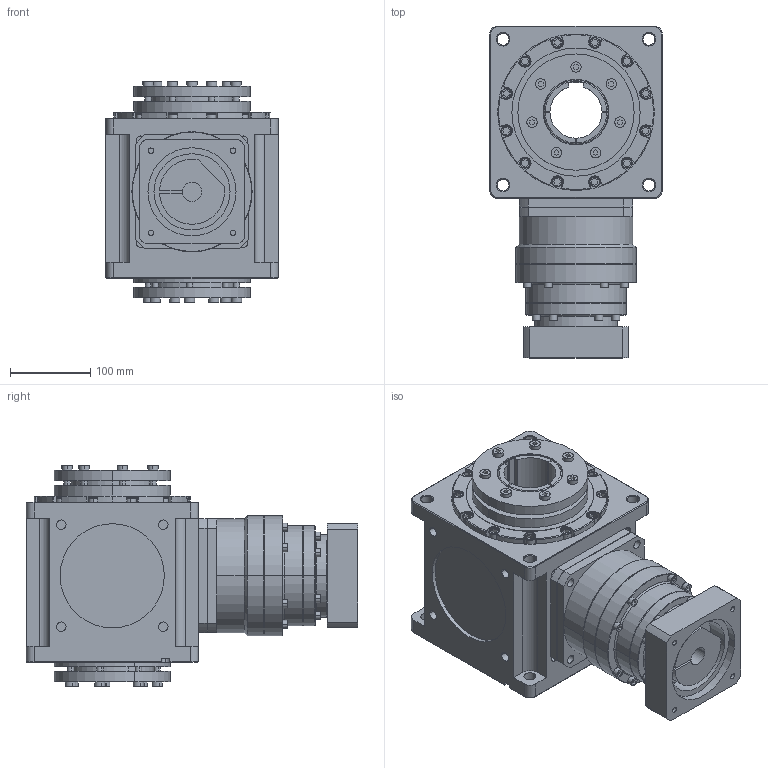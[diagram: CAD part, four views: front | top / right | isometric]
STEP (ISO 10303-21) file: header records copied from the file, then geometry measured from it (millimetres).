
FILE_DESCRIPTION (( 'STEP AP214' ), '1' );
FILE_NAME ('CCW215A-L2(24-200)-2HP-K 24-110-145-M8.STEP', '2025-06-02T06:32:54', ( '微软用户' ), ( '微软中国' ), 'SwSTEP 2.0', 'SolidWorks 2024', '' );
FILE_SCHEMA (( 'AUTOMOTIVE_DESIGN' ));
Length unit declared in the file: millimetre
Products named in the file (5): CCW215A-L2(24-200)-2HP-K 24-110-145-M8; CCW215A-002-2HP-K箱体; 外紧固型胀紧套[80-145]_EDO-80-145; VRB-142-L2-S2-P1 24-110-145-M8; CCW215A行星垫板
Assembly tree (5 placements, depth 2):
  CCW215A-L2(24-200)-2HP-K 24-110-145-M8
    VRB-142-L2-S2-P1 24-110-145-M8
    CCW215A-002-2HP-K箱体
    CCW215A行星垫板
    外紧固型胀紧套[80-145]_EDO-80-145  x2
Bounding box: 215 x 414 x 275.1 mm (x, y, z)
Volume: 11465728.8 mm3; surface area: 721465.8 mm2
Topology: 5 solids, 5 shells, 1144 faces, 2791 edges, 1785 vertices
Faces by surface type: plane 559, cylinder 420, torus 83, cone 58, bspline 24
Entity records: 31635 total; most frequent: CARTESIAN_POINT 6690, DIRECTION 5419, ORIENTED_EDGE 5002, EDGE_CURVE 2501, AXIS2_PLACEMENT_3D 2014, VERTEX_POINT 1593, LINE 1391, VECTOR 1391
